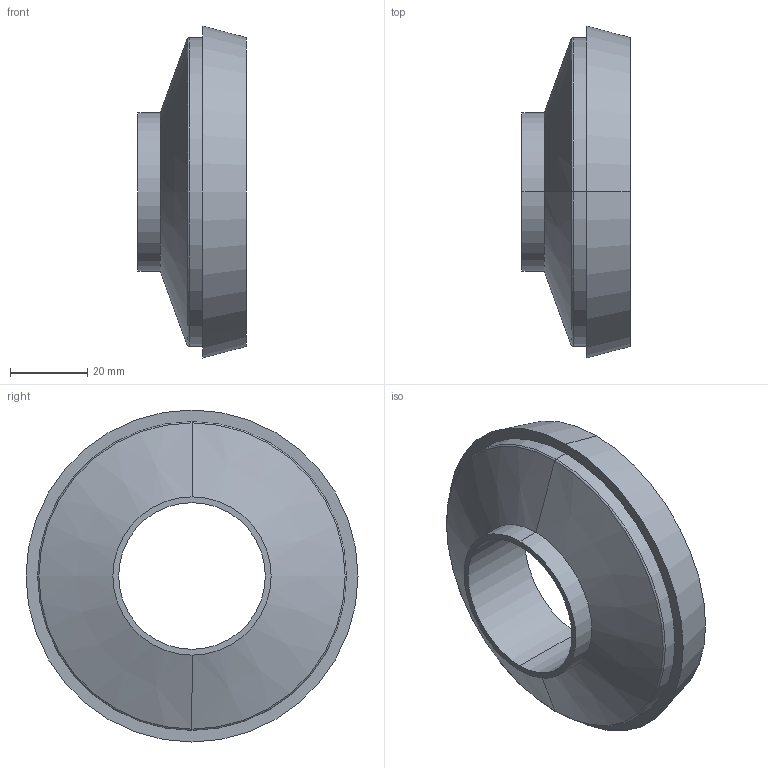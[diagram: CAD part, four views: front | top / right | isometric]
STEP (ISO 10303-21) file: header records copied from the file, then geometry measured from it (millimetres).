
FILE_DESCRIPTION (( 'STEP AP203' ), '1' );
FILE_NAME ('3D-M2024P_65-40_174211150.STEP', '2024-09-06T09:57:26', ( '' ), ( '' ), 'SwSTEP 2.0', 'SolidWorks 2024', '' );
FILE_SCHEMA (( 'CONFIG_CONTROL_DESIGN' ));
Length unit declared in the file: millimetre
Products named in the file (1): 3D-M2024P_65-40_174211150
Bounding box: 28 x 86 x 86 mm (x, y, z)
Volume: 69845.5 mm3; surface area: 16305.5 mm2
Topology: 1 solids, 1 shells, 17 faces, 34 edges, 20 vertices
Faces by surface type: cone 6, cylinder 6, plane 3, torus 2
Entity records: 527 total; most frequent: DIRECTION 92, CARTESIAN_POINT 72, ORIENTED_EDGE 68, AXIS2_PLACEMENT_3D 40, EDGE_CURVE 34, CIRCLE 22, EDGE_LOOP 20, VERTEX_POINT 20
